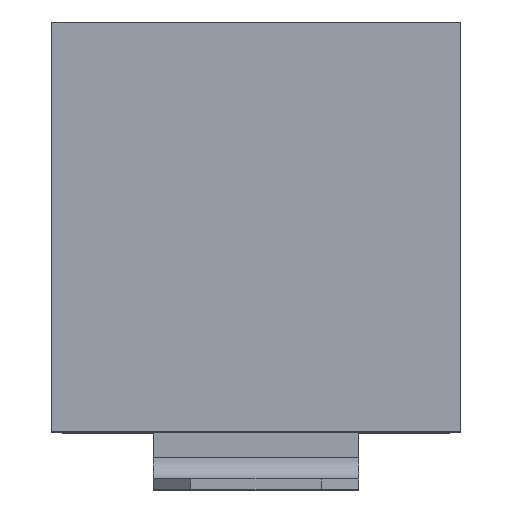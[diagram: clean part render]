
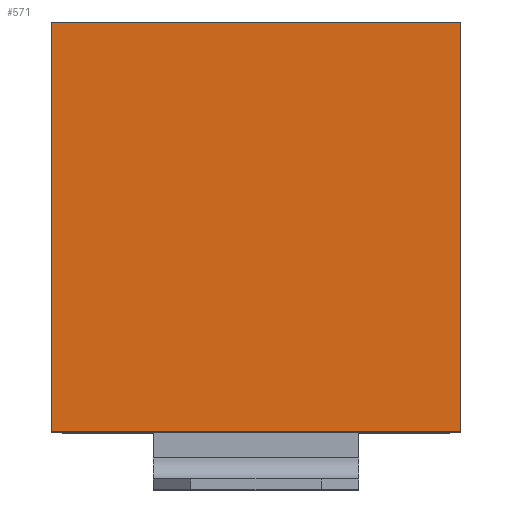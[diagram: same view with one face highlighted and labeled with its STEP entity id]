
A CAD part, top view. The second image highlights one B-rep face of the part: STEP entity #571.
In plain terms, the highlighted planar face has unit normal (0, 0, 1).
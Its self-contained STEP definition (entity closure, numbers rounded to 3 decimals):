
#544=AXIS2_PLACEMENT_3D('Plane Axis2P3D',#541,#542,#543) ;
#513=CARTESIAN_POINT('Vertex',(-15.25,-15.25,81.)) ;
#520=CARTESIAN_POINT('Vertex',(15.25,-15.25,81.)) ;
#523=CARTESIAN_POINT('Line Origine',(0.,-15.25,81.)) ;
#541=CARTESIAN_POINT('Axis2P3D Location',(0.,0.,81.)) ;
#546=CARTESIAN_POINT('Line Origine',(0.,15.25,81.)) ;
#550=CARTESIAN_POINT('Vertex',(15.25,15.25,81.)) ;
#552=CARTESIAN_POINT('Vertex',(-15.25,15.25,81.)) ;
#555=CARTESIAN_POINT('Line Origine',(-15.25,0.,81.)) ;
#560=CARTESIAN_POINT('Line Origine',(15.25,0.,81.)) ;
#524=DIRECTION('Vector Direction',(-1.,0.,0.)) ;
#542=DIRECTION('Axis2P3D Direction',(0.,0.,1.)) ;
#543=DIRECTION('Axis2P3D XDirection',(1.,0.,0.)) ;
#547=DIRECTION('Vector Direction',(1.,0.,0.)) ;
#556=DIRECTION('Vector Direction',(0.,1.,0.)) ;
#561=DIRECTION('Vector Direction',(0.,-1.,0.)) ;
#525=VECTOR('Line Direction',#524,1.) ;
#548=VECTOR('Line Direction',#547,1.) ;
#557=VECTOR('Line Direction',#556,1.) ;
#562=VECTOR('Line Direction',#561,1.) ;
#566=ORIENTED_EDGE('',*,*,#554,.T.) ;
#567=ORIENTED_EDGE('',*,*,#559,.T.) ;
#568=ORIENTED_EDGE('',*,*,#527,.T.) ;
#569=ORIENTED_EDGE('',*,*,#564,.T.) ;
#571=ADVANCED_FACE('PartBody',(#570),#545,.T.) ;
#527=EDGE_CURVE('',#514,#521,#526,.F.) ;
#554=EDGE_CURVE('',#551,#553,#549,.F.) ;
#559=EDGE_CURVE('',#553,#514,#558,.F.) ;
#564=EDGE_CURVE('',#521,#551,#563,.F.) ;
#565=EDGE_LOOP('',(#566,#567,#568,#569)) ;
#570=FACE_OUTER_BOUND('',#565,.T.) ;
#526=LINE('Line',#523,#525) ;
#549=LINE('Line',#546,#548) ;
#558=LINE('Line',#555,#557) ;
#563=LINE('Line',#560,#562) ;
#545=PLANE('',#544) ;
#514=VERTEX_POINT('',#513) ;
#521=VERTEX_POINT('',#520) ;
#551=VERTEX_POINT('',#550) ;
#553=VERTEX_POINT('',#552) ;
